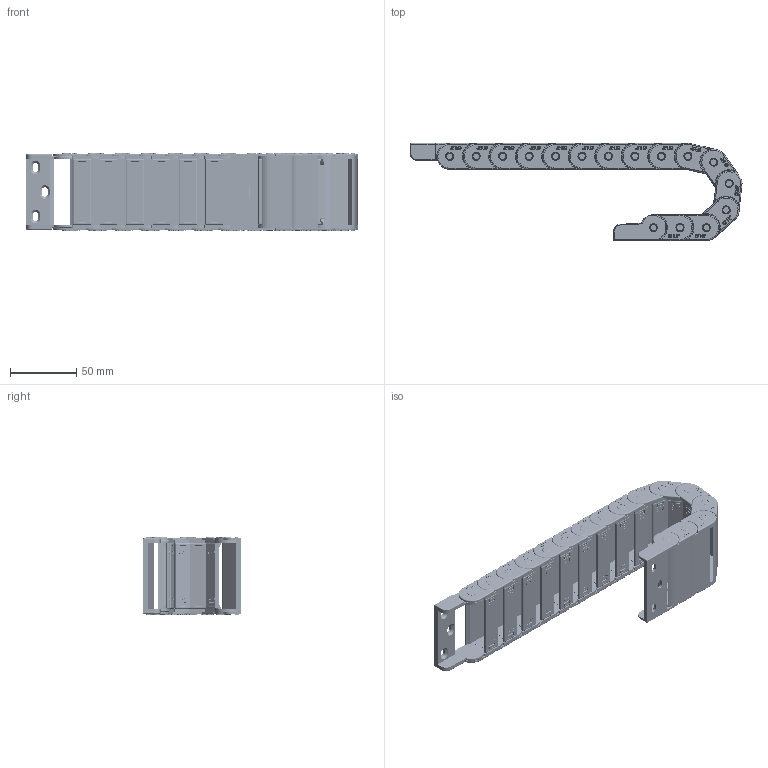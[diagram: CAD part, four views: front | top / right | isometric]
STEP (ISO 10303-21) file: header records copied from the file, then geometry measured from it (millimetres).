
FILE_DESCRIPTION (( 'STEP AP203' ), '1' );
FILE_NAME ('FW5-15BF-1-50N-3D郪璃芞.STEP', '2017-03-13T07:37:21', ( 'china' ), ( 'china' ), 'SwSTEP 2.0', 'SolidWorks 2016', '' );
FILE_SCHEMA (( 'CONFIG_CONTROL_DESIGN' ));
Length unit declared in the file: millimetre
Products named in the file (6): FW-15BF-1-50N-ZT3D; FW15X50-DP3D; FW5-15BFX50-1; FW15X50-XJT-N3D; FW15X50-XJT-W3D; FW5-15BF-1-50N-3D郪璃芞
Assembly tree (19 placements, depth 3):
  FW5-15BF-1-50N-3D郪璃芞
    FW5-15BFX50-1  x15
      FW-15BF-1-50N-ZT3D
      FW15X50-DP3D
    FW15X50-XJT-N3D
    FW15X50-XJT-W3D
Bounding box: 250.9 x 73.36 x 59 mm (x, y, z)
Volume: 106627.7 mm3; surface area: 121641.5 mm2
Topology: 32 solids, 32 shells, 7630 faces, 20258 edges, 13311 vertices
Faces by surface type: plane 3846, bspline 2470, cylinder 974, torus 318, cone 18, sphere 4
Entity records: 42861 total; most frequent: CARTESIAN_POINT 19910, ORIENTED_EDGE 5000, DIRECTION 3663, EDGE_CURVE 2500, VECTOR 1635, LINE 1635, VERTEX_POINT 1633, EDGE_LOOP 1053
